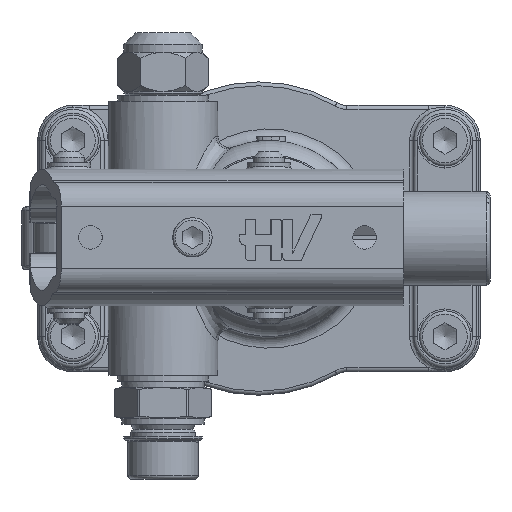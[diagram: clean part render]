
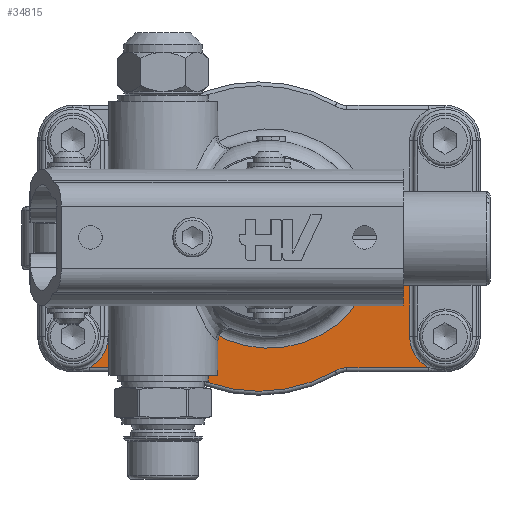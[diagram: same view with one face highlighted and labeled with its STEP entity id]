
A CAD part, top view. The second image highlights one B-rep face of the part: STEP entity #34815.
In plain terms, the highlighted planar face has unit normal (0, 0, 1).
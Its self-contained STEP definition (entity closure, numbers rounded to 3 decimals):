
#34095=CARTESIAN_POINT('',(23.,23.,6.));
#34096=VERTEX_POINT('',#34095);
#34121=CARTESIAN_POINT('',(23.,17.,6.));
#34122=VERTEX_POINT('',#34121);
#34123=CARTESIAN_POINT('',(23.,23.,6.));
#34124=DIRECTION('',(0.0,-1.0,0.0));
#34125=VECTOR('',#34124,6.);
#34126=LINE('',#34123,#34125);
#34127=EDGE_CURVE('',#34096,#34122,#34126,.T.);
#34159=CARTESIAN_POINT('',(84.957,23.5,6.));
#34160=VERTEX_POINT('',#34159);
#34168=CARTESIAN_POINT('',(95.,23.5,6.));
#34169=VERTEX_POINT('',#34168);
#34170=CARTESIAN_POINT('',(84.957,23.5,6.));
#34171=DIRECTION('',(1.0,0.0,0.0));
#34172=VECTOR('',#34171,10.043);
#34173=LINE('',#34170,#34172);
#34174=EDGE_CURVE('',#34160,#34169,#34173,.T.);
#34192=CARTESIAN_POINT('',(40.187,13.262,6.));
#34193=VERTEX_POINT('',#34192);
#34194=CARTESIAN_POINT('',(32.,17.,6.));
#34195=DIRECTION('',(0.0,0.0,1.0));
#34196=DIRECTION('',(-0.91,0.415,0.0));
#34197=AXIS2_PLACEMENT_3D('',#34194,#34195,#34196);
#34198=CIRCLE('',#34197,9.0);
#34199=EDGE_CURVE('',#34122,#34193,#34198,.T.);
#34252=CARTESIAN_POINT('',(59.,34.0,6.));
#34253=DIRECTION('',(0.0,0.0,1.0));
#34254=DIRECTION('',(0.231,0.973,0.0));
#34255=AXIS2_PLACEMENT_3D('',#34252,#34253,#34254);
#34256=CIRCLE('',#34255,28.);
#34257=EDGE_CURVE('',#34193,#34160,#34256,.T.);
#34481=CARTESIAN_POINT('',(18.,23.,6.));
#34482=VERTEX_POINT('',#34481);
#34490=CARTESIAN_POINT('',(18.,23.,6.));
#34491=DIRECTION('',(1.0,0.0,0.0));
#34492=VECTOR('',#34491,5.);
#34493=LINE('',#34490,#34492);
#34494=EDGE_CURVE('',#34482,#34096,#34493,.T.);
#34689=CARTESIAN_POINT('',(18.,9.,6.));
#34690=VERTEX_POINT('',#34689);
#34698=CARTESIAN_POINT('',(18.0,9.0,6.));
#34699=DIRECTION('',(0.0,1.0,0.0));
#34700=VECTOR('',#34699,14.);
#34701=LINE('',#34698,#34700);
#34702=EDGE_CURVE('',#34690,#34482,#34701,.T.);
#34712=CARTESIAN_POINT('',(13.123,1.,6.));
#34713=VERTEX_POINT('',#34712);
#34723=CARTESIAN_POINT('',(9.,9.0,6.));
#34724=DIRECTION('',(0.0,0.0,1.0));
#34725=DIRECTION('',(0.0,-1.0,0.0));
#34726=AXIS2_PLACEMENT_3D('',#34723,#34724,#34725);
#34727=CIRCLE('',#34726,9.0);
#34728=EDGE_CURVE('',#34713,#34690,#34727,.T.);
#34743=CARTESIAN_POINT('',(56.5,34.,6.));
#34744=DIRECTION('',(0.0,0.0,1.0));
#34745=DIRECTION('',(1.0,0.0,0.0));
#34746=AXIS2_PLACEMENT_3D('',#34743,#34744,#34745);
#34747=PLANE('',#34746);
#34748=CARTESIAN_POINT('',(99.877,1.,6.));
#34749=VERTEX_POINT('',#34748);
#34750=CARTESIAN_POINT('',(78.95,1.0,6.));
#34751=VERTEX_POINT('',#34750);
#34752=CARTESIAN_POINT('',(99.877,1.,6.));
#34753=DIRECTION('',(-1.0,0.0,0.0));
#34754=VECTOR('',#34753,20.927);
#34755=LINE('',#34752,#34754);
#34756=EDGE_CURVE('',#34749,#34751,#34755,.T.);
#34757=ORIENTED_EDGE('',*,*,#34756,.F.);
#34758=CARTESIAN_POINT('',(95.0,9.0,6.));
#34759=VERTEX_POINT('',#34758);
#34760=CARTESIAN_POINT('',(104.0,9.,6.));
#34761=DIRECTION('',(0.0,0.0,1.0));
#34762=DIRECTION('',(0.0,-1.0,0.0));
#34763=AXIS2_PLACEMENT_3D('',#34760,#34761,#34762);
#34764=CIRCLE('',#34763,9.0);
#34765=EDGE_CURVE('',#34759,#34749,#34764,.T.);
#34766=ORIENTED_EDGE('',*,*,#34765,.F.);
#34767=CARTESIAN_POINT('',(95.,23.5,6.));
#34768=DIRECTION('',(0.0,-1.0,0.0));
#34769=VECTOR('',#34768,14.5);
#34770=LINE('',#34767,#34769);
#34771=EDGE_CURVE('',#34169,#34759,#34770,.T.);
#34772=ORIENTED_EDGE('',*,*,#34771,.F.);
#34773=ORIENTED_EDGE('',*,*,#34174,.F.);
#34774=ORIENTED_EDGE('',*,*,#34257,.F.);
#34775=ORIENTED_EDGE('',*,*,#34199,.F.);
#34776=ORIENTED_EDGE('',*,*,#34127,.F.);
#34777=ORIENTED_EDGE('',*,*,#34494,.F.);
#34778=ORIENTED_EDGE('',*,*,#34702,.F.);
#34779=ORIENTED_EDGE('',*,*,#34728,.F.);
#34780=CARTESIAN_POINT('',(34.05,1.,6.));
#34781=VERTEX_POINT('',#34780);
#34782=CARTESIAN_POINT('',(34.05,1.,6.));
#34783=DIRECTION('',(-1.0,0.0,0.0));
#34784=VECTOR('',#34783,20.927);
#34785=LINE('',#34782,#34784);
#34786=EDGE_CURVE('',#34781,#34713,#34785,.T.);
#34787=ORIENTED_EDGE('',*,*,#34786,.F.);
#34788=CARTESIAN_POINT('',(37.043,0.2,6.));
#34789=VERTEX_POINT('',#34788);
#34790=CARTESIAN_POINT('',(34.05,-5.0,6.));
#34791=DIRECTION('',(0.0,0.0,1.0));
#34792=DIRECTION('',(0.258,0.966,0.0));
#34793=AXIS2_PLACEMENT_3D('',#34790,#34791,#34792);
#34794=CIRCLE('',#34793,6.0);
#34795=EDGE_CURVE('',#34789,#34781,#34794,.T.);
#34796=ORIENTED_EDGE('',*,*,#34795,.F.);
#34797=CARTESIAN_POINT('',(75.957,0.2,6.));
#34798=VERTEX_POINT('',#34797);
#34799=CARTESIAN_POINT('',(56.5,34.0,6.));
#34800=DIRECTION('',(0.0,0.0,-1.0));
#34801=DIRECTION('',(0.0,-1.0,0.0));
#34802=AXIS2_PLACEMENT_3D('',#34799,#34800,#34801);
#34803=CIRCLE('',#34802,39.0);
#34804=EDGE_CURVE('',#34798,#34789,#34803,.T.);
#34805=ORIENTED_EDGE('',*,*,#34804,.F.);
#34806=CARTESIAN_POINT('',(78.95,-5.0,6.));
#34807=DIRECTION('',(0.0,0.0,1.0));
#34808=DIRECTION('',(-0.258,0.966,0.0));
#34809=AXIS2_PLACEMENT_3D('',#34806,#34807,#34808);
#34810=CIRCLE('',#34809,6.);
#34811=EDGE_CURVE('',#34751,#34798,#34810,.T.);
#34812=ORIENTED_EDGE('',*,*,#34811,.F.);
#34813=EDGE_LOOP('',(#34757,#34766,#34772,#34773,#34774,#34775,#34776,#34777,#34778,#34779,#34787,#34796,#34805,#34812));
#34814=FACE_OUTER_BOUND('',#34813,.T.);
#34815=ADVANCED_FACE('',(#34814),#34747,.T.);
